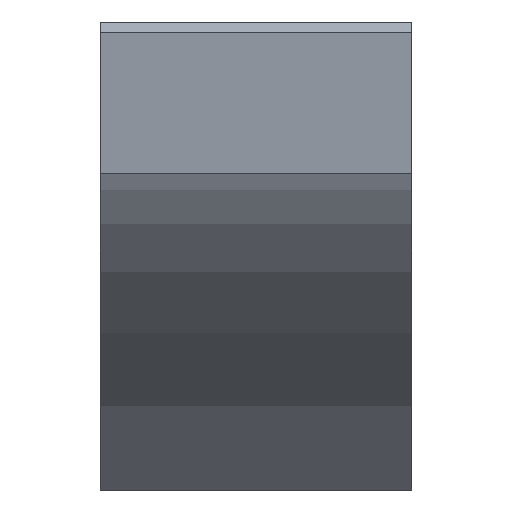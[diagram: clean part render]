
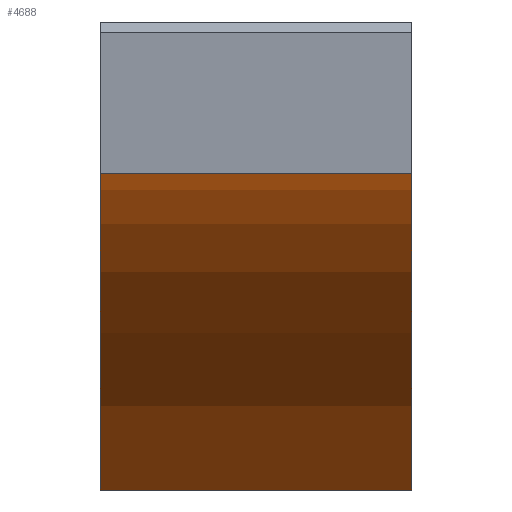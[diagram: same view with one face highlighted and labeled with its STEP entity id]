
A CAD part, front view. The second image highlights one B-rep face of the part: STEP entity #4688.
In plain terms, the highlighted cylindrical face has radius 36.5 mm (diameter 73 mm), a partial arc.
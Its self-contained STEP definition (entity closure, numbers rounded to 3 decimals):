
#24 = VERTEX_POINT('',#25);
#25 = CARTESIAN_POINT('',(-26.,27.547,23.946));
#32 = PLANE('',#33);
#33 = AXIS2_PLACEMENT_3D('',#34,#35,#36);
#34 = CARTESIAN_POINT('',(-26.,0.,0.));
#35 = DIRECTION('',(1.,0.,0.));
#36 = DIRECTION('',(0.,1.,0.));
#43 = PLANE('',#44);
#44 = AXIS2_PLACEMENT_3D('',#45,#46,#47);
#45 = CARTESIAN_POINT('',(-27.,0.,0.));
#46 = DIRECTION('',(0.,-0.656,0.755));
#47 = DIRECTION('',(0.,0.755,0.656));
#4563 = VERTEX_POINT('',#4564);
#4564 = CARTESIAN_POINT('',(-26.,-5.08,36.145));
#4577 = PLANE('',#4578);
#4578 = AXIS2_PLACEMENT_3D('',#4579,#4580,#4581);
#4579 = CARTESIAN_POINT('',(-27.,-7.237,51.494));
#4580 = DIRECTION('',(0.,0.99,0.139));
#4581 = DIRECTION('',(0.,0.139,-0.99));
#4588 = EDGE_CURVE('',#4563,#24,#4589,.T.);
#4589 = SURFACE_CURVE('',#4590,(#4595,#4606),.PCURVE_S1.);
#4590 = CIRCLE('',#4591,36.5);
#4591 = AXIS2_PLACEMENT_3D('',#4592,#4593,#4594);
#4592 = CARTESIAN_POINT('',(-26.,0.,0.));
#4593 = DIRECTION('',(-1.,-0.,0.));
#4594 = DIRECTION('',(0.,-1.,0.));
#4595 = PCURVE('',#32,#4596);
#4596 = DEFINITIONAL_REPRESENTATION('',(#4597),#4605);
#4597 = ( BOUNDED_CURVE() B_SPLINE_CURVE(2,(#4598,#4599,#4600,#4601,
#4602,#4603,#4604),.UNSPECIFIED.,.T.,.F.) B_SPLINE_CURVE_WITH_KNOTS((1,2
    ,2,2,2,1),(-2.094,0.,2.094,4.189,
6.283,8.378),.UNSPECIFIED.) CURVE() 
GEOMETRIC_REPRESENTATION_ITEM() RATIONAL_B_SPLINE_CURVE((1.,0.5,1.,0.5,
1.,0.5,1.)) REPRESENTATION_ITEM('') );
#4598 = CARTESIAN_POINT('',(-36.5,0.));
#4599 = CARTESIAN_POINT('',(-36.5,63.22));
#4600 = CARTESIAN_POINT('',(18.25,31.61));
#4601 = CARTESIAN_POINT('',(73.,0.));
#4602 = CARTESIAN_POINT('',(18.25,-31.61));
#4603 = CARTESIAN_POINT('',(-36.5,-63.22));
#4604 = CARTESIAN_POINT('',(-36.5,0.));
#4605 = ( GEOMETRIC_REPRESENTATION_CONTEXT(2) 
PARAMETRIC_REPRESENTATION_CONTEXT() REPRESENTATION_CONTEXT('2D SPACE',''
  ) );
#4606 = PCURVE('',#4607,#4612);
#4607 = CYLINDRICAL_SURFACE('',#4608,36.5);
#4608 = AXIS2_PLACEMENT_3D('',#4609,#4610,#4611);
#4609 = CARTESIAN_POINT('',(-27.,0.,0.));
#4610 = DIRECTION('',(-1.,-0.,-0.));
#4611 = DIRECTION('',(0.,-1.,0.));
#4612 = DEFINITIONAL_REPRESENTATION('',(#4613),#4617);
#4613 = LINE('',#4614,#4615);
#4614 = CARTESIAN_POINT('',(-6.283,-1.));
#4615 = VECTOR('',#4616,1.);
#4616 = DIRECTION('',(1.,-0.));
#4617 = ( GEOMETRIC_REPRESENTATION_CONTEXT(2) 
PARAMETRIC_REPRESENTATION_CONTEXT() REPRESENTATION_CONTEXT('2D SPACE',''
  ) );
#4625 = VERTEX_POINT('',#4626);
#4626 = CARTESIAN_POINT('',(-14.,27.547,23.946));
#4639 = PLANE('',#4640);
#4640 = AXIS2_PLACEMENT_3D('',#4641,#4642,#4643);
#4641 = CARTESIAN_POINT('',(-14.,0.,0.)
  );
#4642 = DIRECTION('',(1.,0.,0.));
#4643 = DIRECTION('',(0.,1.,0.));
#4670 = EDGE_CURVE('',#4625,#24,#4671,.T.);
#4671 = SURFACE_CURVE('',#4672,(#4676,#4682),.PCURVE_S1.);
#4672 = LINE('',#4673,#4674);
#4673 = CARTESIAN_POINT('',(-27.,27.547,23.946));
#4674 = VECTOR('',#4675,1.);
#4675 = DIRECTION('',(-1.,-0.,-0.));
#4676 = PCURVE('',#43,#4677);
#4677 = DEFINITIONAL_REPRESENTATION('',(#4678),#4681);
#4678 = B_SPLINE_CURVE_WITH_KNOTS('',1,(#4679,#4680),.UNSPECIFIED.,.F.,
  .F.,(2,2),(-14.,0.),.PIECEWISE_BEZIER_KNOTS.);
#4679 = CARTESIAN_POINT('',(36.5,-14.));
#4680 = CARTESIAN_POINT('',(36.5,0.));
#4681 = ( GEOMETRIC_REPRESENTATION_CONTEXT(2) 
PARAMETRIC_REPRESENTATION_CONTEXT() REPRESENTATION_CONTEXT('2D SPACE',''
  ) );
#4682 = PCURVE('',#4607,#4683);
#4683 = DEFINITIONAL_REPRESENTATION('',(#4684),#4687);
#4684 = B_SPLINE_CURVE_WITH_KNOTS('',1,(#4685,#4686),.UNSPECIFIED.,.F.,
  .F.,(2,2),(-14.,0.),.PIECEWISE_BEZIER_KNOTS.);
#4685 = CARTESIAN_POINT('',(-3.857,-14.));
#4686 = CARTESIAN_POINT('',(-3.857,0.));
#4687 = ( GEOMETRIC_REPRESENTATION_CONTEXT(2) 
PARAMETRIC_REPRESENTATION_CONTEXT() REPRESENTATION_CONTEXT('2D SPACE',''
  ) );
#4688 = ADVANCED_FACE('',(#4689),#4607,.F.);
#4689 = FACE_BOUND('',#4690,.T.);
#4690 = EDGE_LOOP('',(#4691,#4712,#4713,#4714));
#4691 = ORIENTED_EDGE('',*,*,#4692,.T.);
#4692 = EDGE_CURVE('',#4693,#4563,#4695,.T.);
#4693 = VERTEX_POINT('',#4694);
#4694 = CARTESIAN_POINT('',(-14.,-5.08,36.145));
#4695 = SURFACE_CURVE('',#4696,(#4700,#4706),.PCURVE_S1.);
#4696 = LINE('',#4697,#4698);
#4697 = CARTESIAN_POINT('',(-27.,-5.08,36.145));
#4698 = VECTOR('',#4699,1.);
#4699 = DIRECTION('',(-1.,-0.,-0.));
#4700 = PCURVE('',#4607,#4701);
#4701 = DEFINITIONAL_REPRESENTATION('',(#4702),#4705);
#4702 = B_SPLINE_CURVE_WITH_KNOTS('',1,(#4703,#4704),.UNSPECIFIED.,.F.,
  .F.,(2,2),(-14.,0.),.PIECEWISE_BEZIER_KNOTS.);
#4703 = CARTESIAN_POINT('',(-4.852,-14.));
#4704 = CARTESIAN_POINT('',(-4.852,0.));
#4705 = ( GEOMETRIC_REPRESENTATION_CONTEXT(2) 
PARAMETRIC_REPRESENTATION_CONTEXT() REPRESENTATION_CONTEXT('2D SPACE',''
  ) );
#4706 = PCURVE('',#4577,#4707);
#4707 = DEFINITIONAL_REPRESENTATION('',(#4708),#4711);
#4708 = B_SPLINE_CURVE_WITH_KNOTS('',1,(#4709,#4710),.UNSPECIFIED.,.F.,
  .F.,(2,2),(-14.,0.),.PIECEWISE_BEZIER_KNOTS.);
#4709 = CARTESIAN_POINT('',(15.5,-14.));
#4710 = CARTESIAN_POINT('',(15.5,0.));
#4711 = ( GEOMETRIC_REPRESENTATION_CONTEXT(2) 
PARAMETRIC_REPRESENTATION_CONTEXT() REPRESENTATION_CONTEXT('2D SPACE',''
  ) );
#4712 = ORIENTED_EDGE('',*,*,#4588,.T.);
#4713 = ORIENTED_EDGE('',*,*,#4670,.F.);
#4714 = ORIENTED_EDGE('',*,*,#4715,.F.);
#4715 = EDGE_CURVE('',#4693,#4625,#4716,.T.);
#4716 = SURFACE_CURVE('',#4717,(#4722,#4729),.PCURVE_S1.);
#4717 = CIRCLE('',#4718,36.5);
#4718 = AXIS2_PLACEMENT_3D('',#4719,#4720,#4721);
#4719 = CARTESIAN_POINT('',(-14.,0.,0.));
#4720 = DIRECTION('',(-1.,-0.,0.));
#4721 = DIRECTION('',(0.,-1.,0.));
#4722 = PCURVE('',#4607,#4723);
#4723 = DEFINITIONAL_REPRESENTATION('',(#4724),#4728);
#4724 = LINE('',#4725,#4726);
#4725 = CARTESIAN_POINT('',(-6.283,-13.));
#4726 = VECTOR('',#4727,1.);
#4727 = DIRECTION('',(1.,-0.));
#4728 = ( GEOMETRIC_REPRESENTATION_CONTEXT(2) 
PARAMETRIC_REPRESENTATION_CONTEXT() REPRESENTATION_CONTEXT('2D SPACE',''
  ) );
#4729 = PCURVE('',#4639,#4730);
#4730 = DEFINITIONAL_REPRESENTATION('',(#4731),#4739);
#4731 = ( BOUNDED_CURVE() B_SPLINE_CURVE(2,(#4732,#4733,#4734,#4735,
#4736,#4737,#4738),.UNSPECIFIED.,.T.,.F.) B_SPLINE_CURVE_WITH_KNOTS((1,2
    ,2,2,2,1),(-2.094,0.,2.094,4.189,
6.283,8.378),.UNSPECIFIED.) CURVE() 
GEOMETRIC_REPRESENTATION_ITEM() RATIONAL_B_SPLINE_CURVE((1.,0.5,1.,0.5,
1.,0.5,1.)) REPRESENTATION_ITEM('') );
#4732 = CARTESIAN_POINT('',(-36.5,0.));
#4733 = CARTESIAN_POINT('',(-36.5,63.22));
#4734 = CARTESIAN_POINT('',(18.25,31.61));
#4735 = CARTESIAN_POINT('',(73.,0.));
#4736 = CARTESIAN_POINT('',(18.25,-31.61));
#4737 = CARTESIAN_POINT('',(-36.5,-63.22));
#4738 = CARTESIAN_POINT('',(-36.5,0.));
#4739 = ( GEOMETRIC_REPRESENTATION_CONTEXT(2) 
PARAMETRIC_REPRESENTATION_CONTEXT() REPRESENTATION_CONTEXT('2D SPACE',''
  ) );
